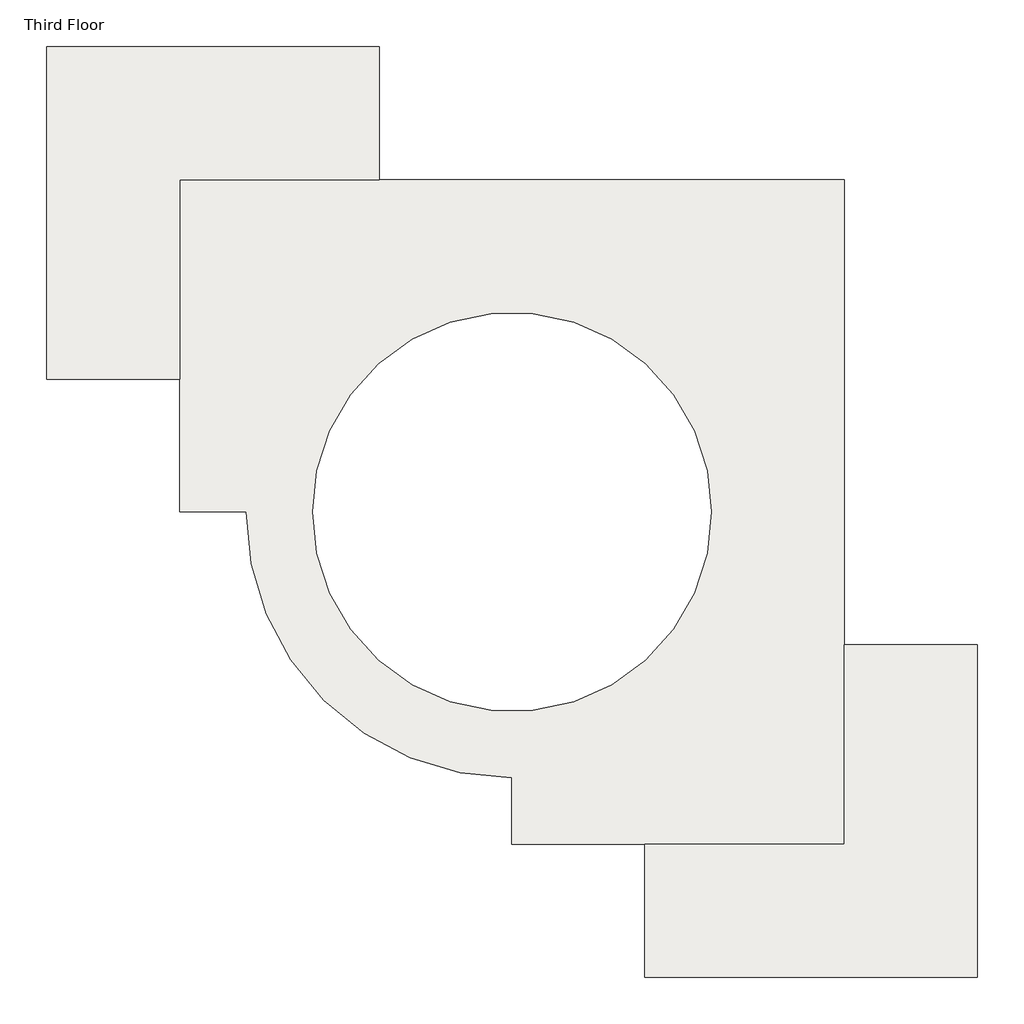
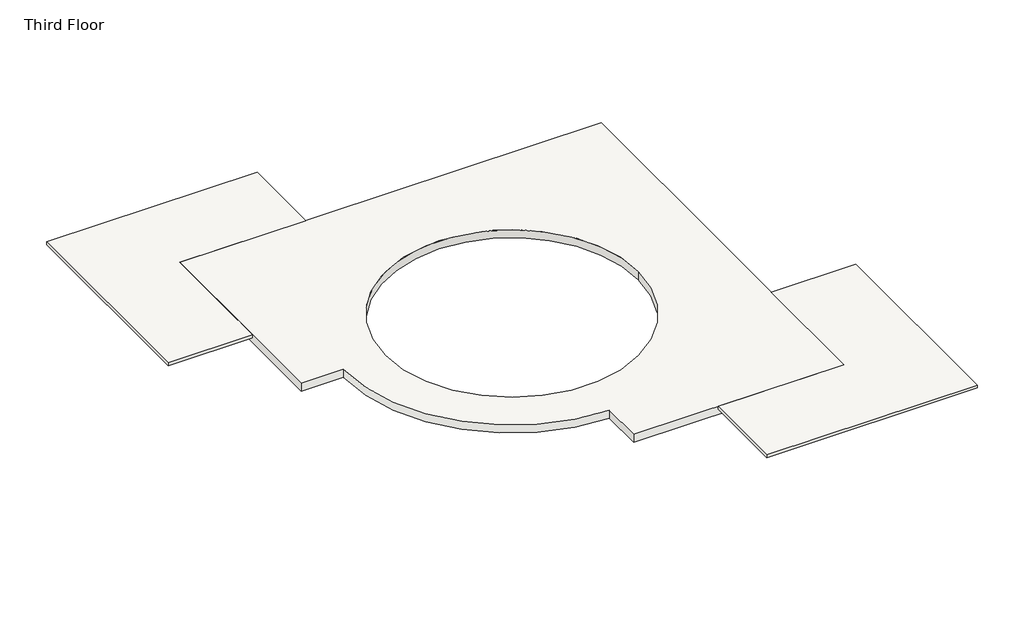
# One storey: 2 slabs.
"""IFC4 building model written with IfcOpenShell, lengths in millimetres."""

from ifc_helpers import new_model, si_unit, point, frame, frame_2d, origin, place, context, project, spatial, polyline, circle_curve, trimmed, segment, composite_curve, outline, extrude, element, save

model = new_model("IFC4")

# Units and contexts
model_context = context("Model", 3, world=origin())
ifc_project = project(units=[si_unit("LENGTHUNIT", "METRE", prefix="MILLI")], contexts=[model_context])

# Site, building, storey
site = spatial("IfcSite", under=ifc_project)
building = spatial("IfcBuilding", under=site)
storey = spatial("IfcBuildingStorey", under=building, Name="Third Floor", Elevation=6096.0)

# Slabs
placement = place(None, origin())
element("IfcSlab", 1, ObjectType="Generic - 12\"", at=placement, inside=storey, context=model_context, shape_type="SweptSolid", body=[
    extrude(outline(composite_curve([segment(polyline([(734.736716, 12739.1261432), (734.736716, -2500.8738568), (-6885.263284, -2500.8738568), (-6885.263284, -976.8738568)]), True, "CONTINUOUS"), segment(trimmed(circle_curve(frame_2d((-6885.263284, 5119.1261432)), 6096.0), [point((-6885.263284, -976.8738568))], [point((-12981.263284, 5119.1261432))], False, "CARTESIAN"), True, "CONTINUOUS"), segment(polyline([(-12981.263284, 5119.1261432), (-14505.263284, 5119.1261432), (-14505.263284, 12739.1261432), (734.736716, 12739.1261432)]), True, "CONTINUOUS")], self_intersect=False), holes=[composite_curve([segment(trimmed(circle_curve(frame_2d((-6885.263284, 5119.1261432)), 4572.0), [point((-2313.263284, 5119.1261432))], [point((-11457.263284, 5119.1261432))], True, "CARTESIAN"), True, "CONTINUOUS"), segment(trimmed(circle_curve(frame_2d((-6885.263284, 5119.1261432)), 4572.0), [point((-11457.263284, 5119.1261432))], [point((-2313.263284, 5119.1261432))], True, "CARTESIAN"), True, "CONTINUOUS")], self_intersect=False)]), frame((0.0, 0.0, 5791.2), z_axis=(0.0, 0.0, 1.0), x_axis=(1.0, 0.0, 0.0)), (0.0, 0.0, 1.0), 304.8),
])
element("IfcSlab", 2, ObjectType="LW Concrete on Metal Deck", at=placement, inside=storey, context=model_context, shape_type="SweptSolid", body=[
    extrude(outline(polyline([(-9933.263284, 12739.1261432), (-14505.263284, 12739.1261432), (-14505.263284, 8167.1261432), (-17553.263284, 8167.1261432), (-17553.263284, 15787.1261432), (-9933.263284, 15787.1261432), (-9933.263284, 12739.1261432)])), frame((0.0, 0.0, 5991.225), z_axis=(0.0, 0.0, 1.0), x_axis=(1.0, 0.0, 0.0)), (0.0, 0.0, 1.0), 104.775),
    extrude(outline(polyline([(734.736716, 2071.1261432), (3782.736716, 2071.1261432), (3782.736716, -5548.8738568), (-3837.263284, -5548.8738568), (-3837.263284, -2500.8738568), (734.736716, -2500.8738568), (734.736716, 2071.1261432)])), frame((0.0, 0.0, 5991.225), z_axis=(0.0, 0.0, 1.0), x_axis=(1.0, 0.0, 0.0)), (0.0, 0.0, 1.0), 104.775),
])

save(model, "model.ifc")
